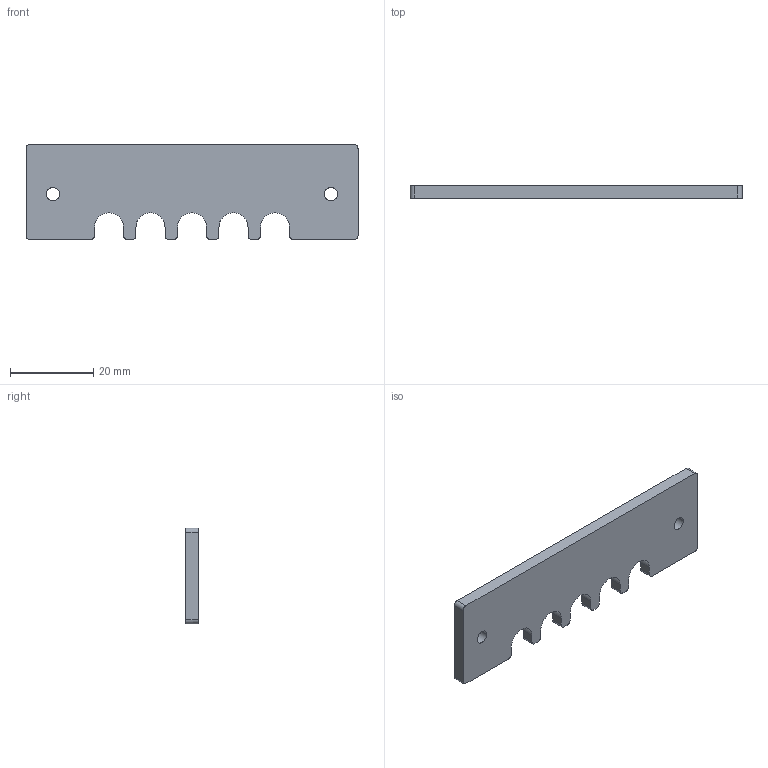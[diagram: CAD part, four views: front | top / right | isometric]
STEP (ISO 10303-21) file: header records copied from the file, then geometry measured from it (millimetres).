
FILE_DESCRIPTION(/* description */ (''),/* implementation_level */ '2;1');
FILE_NAME(/* name */ '1.frame-bottom#1.6#la-pan-6',/* time_stamp */ '2014-12-01T20:11:28+01:00',/* author */ (''),/* organization */ (''),/* preprocessor_version */ 'ST-DEVELOPER v14',/* originating_system */ '',/* authorisation */ '');
FILE_SCHEMA (('AUTOMOTIVE_DESIGN'));
Length unit declared in the file: millimetre
Products named in the file (1): Document
Bounding box: 80 x 3 x 23 mm (x, y, z)
Volume: 4859 mm3; surface area: 4050.6 mm2
Topology: 1 solids, 1 shells, 44 faces, 126 edges, 84 vertices
Faces by surface type: bspline 33, plane 11
Entity records: 2836 total; most frequent: CARTESIAN_POINT 1323, ORIENTED_EDGE 252, PCURVE 252, DEFINITIONAL_REPRESENTATION 252, B_SPLINE_CURVE_WITH_KNOTS 214, SURFACE_CURVE 126, EDGE_CURVE 126, VERTEX_POINT 84
